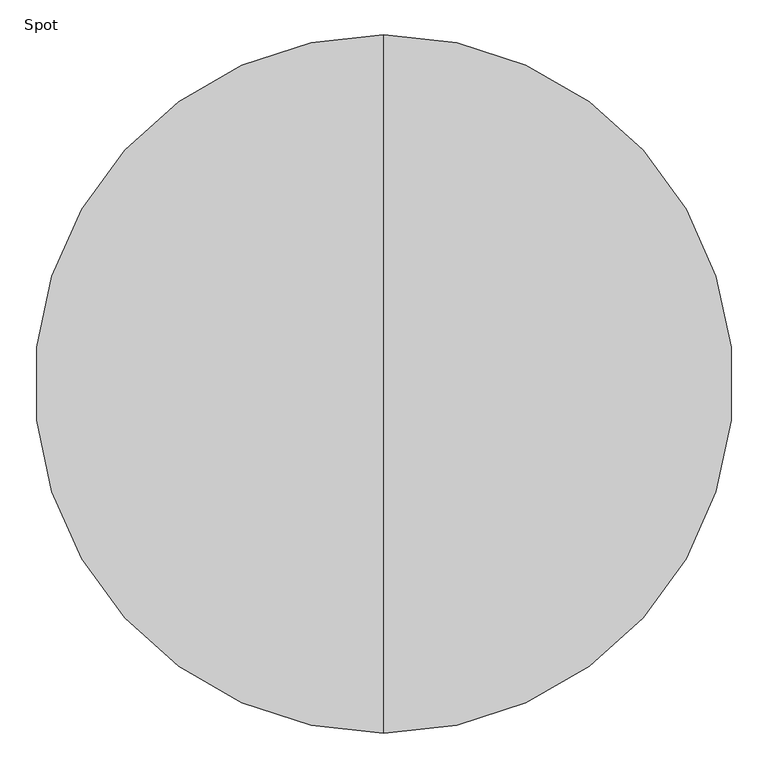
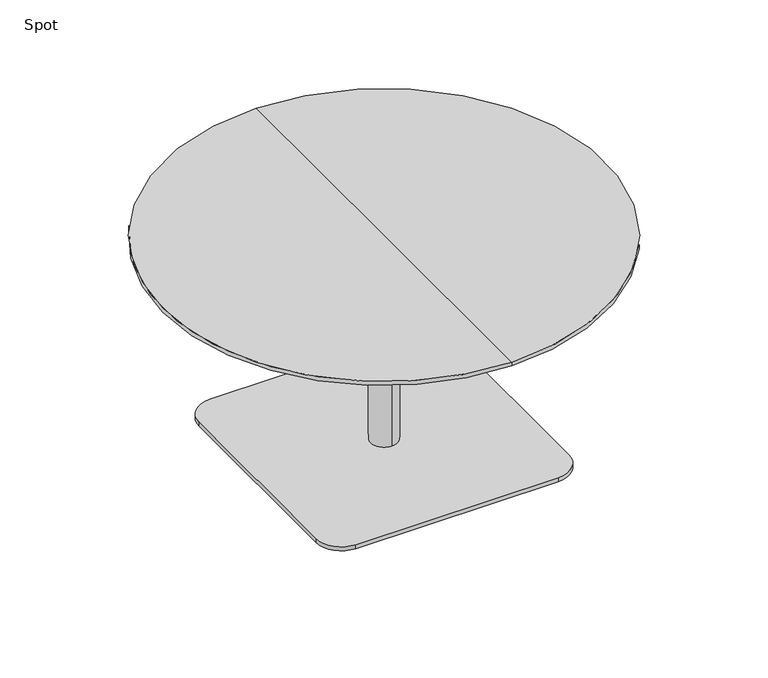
"""IFC4 building model written with IfcOpenShell, lengths in millimetres: furniture geometry, Spot : ø105x52s."""

import ifcopenshell
import ifcopenshell.guid

model = None  # the IFC model being written
_history = None  # IfcOwnerHistory: only IFC2X3 demands one
_inside = {}  # id of a spatial element -> (the spatial element, [elements in it])
_under = {}  # id of a project, library or spatial element -> (it, [spatial elements below it])
_declared = {}  # id of a project -> (the project, [libraries it declares])
_typed = {}  # id of a type object -> (the type object, [elements of that type])
_made_of = {}  # id of a material, layer set ... -> (it, [elements and type objects made of it])


def new_model(schema):
    """Start an empty IFC model of exactly this schema.

    Asked for "IFC4X3", IfcOpenShell would pick the latest addendum, in which some entities
    have other attributes; the version numbers below select the first issue.
    IFC2X3 requires an IfcOwnerHistory on every rooted entity: one is made here for all.
    """
    global model, _history
    if schema == "IFC4X3":
        model = ifcopenshell.file(schema_version=(4, 3, 0, 0))
    else:
        model = ifcopenshell.file(schema=schema)
    _inside.clear()
    _under.clear()
    _declared.clear()
    _typed.clear()
    _made_of.clear()
    _history = None
    if model.schema == "IFC2X3":
        org = make("IfcOrganization", Name="unknown")
        user = make(
            "IfcPersonAndOrganization",
            ThePerson=make("IfcPerson", FamilyName="unknown"),
            TheOrganization=org,
        )
        app = make(
            "IfcApplication",
            ApplicationDeveloper=org,
            Version="unknown",
            ApplicationFullName="unknown",
            ApplicationIdentifier="unknown",
        )
        _history = make(
            "IfcOwnerHistory",
            OwningUser=user,
            OwningApplication=app,
            ChangeAction="ADDED",
            CreationDate=0,
        )
    return model


def make(cls, **values):
    """One entity of the class cls with the attributes given. An attribute that is None is left unset."""
    return model.create_entity(
        cls, **{name: value for name, value in values.items() if value is not None}
    )


def rooted(cls, **values):
    """An entity with a GlobalId (a new one), such as an element, a storey or a relation."""
    return make(cls, GlobalId=ifcopenshell.guid.new(), OwnerHistory=_history, **values)


def si_unit(unit_type, name, prefix=None):
    """IfcSIUnit, for example si_unit("LENGTHUNIT", "METRE", prefix="MILLI")."""
    return make("IfcSIUnit", UnitType=unit_type, Prefix=prefix, Name=name)


def assignment(units):
    """IfcUnitAssignment: the units of a project."""
    return None if units is None else make("IfcUnitAssignment", Units=units)


def point(xyz):
    """IfcCartesianPoint."""
    return None if xyz is None else make("IfcCartesianPoint", Coordinates=xyz)


def direction(xyz):
    """IfcDirection."""
    return None if xyz is None else make("IfcDirection", DirectionRatios=xyz)


def frame(location, z_axis=None, x_axis=None):
    """IfcAxis2Placement3D, a coordinate frame: its origin and axes. An axis left out is left unset."""
    return make(
        "IfcAxis2Placement3D",
        Location=point(location),
        Axis=direction(z_axis),
        RefDirection=direction(x_axis),
    )


def frame_2d(location, x_axis=None):
    """IfcAxis2Placement2D, a coordinate frame in the plane: its origin and x axis."""
    return make(
        "IfcAxis2Placement2D", Location=point(location), RefDirection=direction(x_axis)
    )


def origin():
    """The frame at (0, 0, 0) with its axes left unset."""
    return frame((0.0, 0.0, 0.0))


def origin_with_axes():
    """The frame at (0, 0, 0) with the z axis (0, 0, 1) and the x axis (1, 0, 0) written out."""
    return frame((0.0, 0.0, 0.0), z_axis=(0.0, 0.0, 1.0), x_axis=(1.0, 0.0, 0.0))


def place(relative_to, where):
    """IfcLocalPlacement: puts the frame where relative to a parent placement (None: the world)."""
    return make(
        "IfcLocalPlacement", PlacementRelTo=relative_to, RelativePlacement=where
    )


def context(
    kind, dimensions, precision=None, world=None, true_north=None, identifier=None
):
    """IfcGeometricRepresentationContext, for example the 3D "Model" context."""
    return make(
        "IfcGeometricRepresentationContext",
        ContextIdentifier=identifier,
        ContextType=kind,
        CoordinateSpaceDimension=dimensions,
        Precision=precision,
        WorldCoordinateSystem=world,
        TrueNorth=true_north,
    )


def project(units=None, contexts=None):
    """IfcProject with its units and contexts."""
    return rooted(
        "IfcProject",
        Name="project",
        RepresentationContexts=contexts,
        UnitsInContext=assignment(units),
    )


def spatial(cls, under=None, at=None, **own):
    """A site, building, storey or space (cls), placed at a placement, below another one or the project."""
    s = rooted(cls, ObjectPlacement=at, **own)
    if under is not None:
        _under.setdefault(under.id(), (under, []))[1].append(s)
    return s


def polyline(points):
    """IfcPolyline through the points."""
    return make("IfcPolyline", Points=[point(p) for p in points])


def circle_curve(where, radius):
    """IfcCircle in the frame where."""
    return make("IfcCircle", Position=where, Radius=radius)


def trimmed(basis, trim1, trim2, sense, master):
    """IfcTrimmedCurve: the piece of a basis curve between two trims."""
    return make(
        "IfcTrimmedCurve",
        BasisCurve=basis,
        Trim1=trim1,
        Trim2=trim2,
        SenseAgreement=sense,
        MasterRepresentation=master,
    )


def segment(curve, same_sense, transition):
    """IfcCompositeCurveSegment."""
    return make(
        "IfcCompositeCurveSegment",
        Transition=transition,
        SameSense=same_sense,
        ParentCurve=curve,
    )


def composite_curve(segments, self_intersect=None):
    """IfcCompositeCurve: segments joined end to end."""
    return make("IfcCompositeCurve", Segments=segments, SelfIntersect=self_intersect)


def outline(outer, holes=None, kind="AREA"):
    """IfcArbitraryClosedProfileDef: a profile drawn as a closed curve; with holes, ...WithVoids."""
    if holes is None:
        return make("IfcArbitraryClosedProfileDef", ProfileType=kind, OuterCurve=outer)
    return make(
        "IfcArbitraryProfileDefWithVoids",
        ProfileType=kind,
        OuterCurve=outer,
        InnerCurves=holes,
    )


def extrude(swept, where, along, depth):
    """IfcExtrudedAreaSolid: the profile swept, set in the frame where, extruded along a direction by depth."""
    return make(
        "IfcExtrudedAreaSolid",
        SweptArea=swept,
        Position=where,
        ExtrudedDirection=direction(along),
        Depth=depth,
    )


def shape(context_of_items, identifier, shape_type, items):
    """IfcShapeRepresentation: the items that make up one representation, for example the "Body"."""
    return make(
        "IfcShapeRepresentation",
        ContextOfItems=context_of_items,
        RepresentationIdentifier=identifier,
        RepresentationType=shape_type,
        Items=items,
    )


def source(mapping_origin, context_of_items, identifier, shape_type, items):
    """IfcRepresentationMap: a shape defined once, which mapped items show again and again."""
    return make(
        "IfcRepresentationMap",
        MappingOrigin=mapping_origin,
        MappedRepresentation=shape(context_of_items, identifier, shape_type, items),
    )


def transform(
    local_origin,
    x_axis=None,
    y_axis=None,
    z_axis=None,
    scale=None,
    scale2=None,
    scale3=None,
    uniform=True,
):
    """IfcCartesianTransformationOperator3D, or its non-uniform kind. x_axis, y_axis, z_axis: its Axis1, 2, 3."""
    if uniform:
        return make(
            "IfcCartesianTransformationOperator3D",
            Axis1=direction(x_axis),
            Axis2=direction(y_axis),
            LocalOrigin=point(local_origin),
            Scale=scale,
            Axis3=direction(z_axis),
        )
    return make(
        "IfcCartesianTransformationOperator3DnonUniform",
        Axis1=direction(x_axis),
        Axis2=direction(y_axis),
        LocalOrigin=point(local_origin),
        Scale=scale,
        Axis3=direction(z_axis),
        Scale2=scale2,
        Scale3=scale3,
    )


def mapped(mapping_source, mapping_target):
    """IfcMappedItem: shows the shape of a source again, moved by a transform."""
    return make(
        "IfcMappedItem", MappingSource=mapping_source, MappingTarget=mapping_target
    )


def made_of(thing, what):
    """Note that an element or type object is made of a material, layer set ...; save() writes the relation."""
    if what is not None:
        _made_of.setdefault(what.id(), (what, []))[1].append(thing)
    return thing


def element(
    cls,
    number,
    at=None,
    inside=None,
    cuts=None,
    type_object=None,
    material=None,
    context=None,
    identifier="Body",
    shape_type=None,
    held_by="IfcProductDefinitionShape",
    body=None,
    shapes=None,
    **own,
):
    """One element of the class cls, such as IfcWall. Its Tag is "e" and its number.

    at: its placement. inside: the storey or other place that contains it. cuts: it is an
    opening in that element (IfcRelVoidsElement). A single representation is given by context,
    identifier, shape_type and body (its items); several are given by shapes. held_by: the class
    of the entity that holds the representations. save() writes the other relations.
    """
    e = rooted(cls, Tag="e%d" % number, ObjectPlacement=at, **own)
    if body is not None:
        shapes = [shape(context, identifier, shape_type, body)]
    if shapes is not None:
        e.Representation = make(held_by, Representations=shapes)
    if inside is not None:
        _inside.setdefault(inside.id(), (inside, []))[1].append(e)
    if cuts is not None:
        rooted(
            "IfcRelVoidsElement", RelatingBuildingElement=cuts, RelatedOpeningElement=e
        )
    if type_object is not None:
        _typed.setdefault(type_object.id(), (type_object, []))[1].append(e)
    return made_of(e, material)


def aggregate(whole, parts):
    """IfcRelAggregates: a whole, such as a stair, and the parts it consists of."""
    return rooted("IfcRelAggregates", RelatingObject=whole, RelatedObjects=parts)


def save(model, path):
    """Write the relations noted so far, then the file.

    IfcRelAggregates (storeys below a building ...), IfcRelContainedInSpatialStructure (elements
    in a storey), IfcRelDefinesByType, IfcRelAssociatesMaterial and IfcRelDeclares: one each for
    every whole, place, type object, material and project.
    """
    for whole, parts in _under.values():
        aggregate(whole, parts)
    for where, things in _inside.values():
        rooted(
            "IfcRelContainedInSpatialStructure",
            RelatedElements=things,
            RelatingStructure=where,
        )
    for kind, things in _typed.values():
        rooted("IfcRelDefinesByType", RelatedObjects=things, RelatingType=kind)
    for what, things in _made_of.values():
        rooted("IfcRelAssociatesMaterial", RelatedObjects=things, RelatingMaterial=what)
    for by, libraries in _declared.values():
        rooted("IfcRelDeclares", RelatingContext=by, RelatedDefinitions=libraries)
    model.write(path)


def plane_surface(at):
    """IfcPlane: the flat surface through the origin of the frame at, square to its z axis."""
    return make("IfcPlane", Position=at)


def cylinder_surface(at, radius):
    """IfcCylindricalSurface: all points at the distance radius from the z axis of the frame at."""
    return make("IfcCylindricalSurface", Position=at, Radius=radius)


def revolved_surface(curve, axis_point, axis_direction):
    """IfcSurfaceOfRevolution: the curve turned about the line through axis_point along axis_direction."""
    return make(
        "IfcSurfaceOfRevolution",
        SweptCurve=make("IfcArbitraryOpenProfileDef", ProfileType="CURVE", Curve=curve),
        AxisPosition=make("IfcAxis1Placement", Location=point(axis_point), Axis=direction(axis_direction)),
    )


def advanced_brep(points, edges, surfaces, faces):
    """IfcAdvancedBrep: a solid bounded by faces that lie on surfaces and meet in shared edges.

    An edge is (start, end): straight between two places in points (the first is 0);
    or (start, end, curve); or (start, end, curve, False) where it runs against its curve.
    A face is (place in surfaces, loops), or (place, loops, False) where it looks against
    its surface's normal. A loop lists edges by number (the first is 1), with a minus sign
    where the edge is run from its end to its start. The first loop is the outer one.
    """
    corners = [point(p) for p in points]
    vertices = [make("IfcVertexPoint", VertexGeometry=c) for c in corners]
    made = []
    for start, end, *more in edges:
        made.append(
            make(
                "IfcEdgeCurve",
                EdgeStart=vertices[start],
                EdgeEnd=vertices[end],
                EdgeGeometry=more[0] if more else make("IfcPolyline", Points=[corners[start], corners[end]]),
                SameSense=more[1] if len(more) > 1 else True,
            )
        )
    hull = []
    for where, loops, *sense in faces:
        bounds = []
        for j, loop in enumerate(loops):
            ring = [make("IfcOrientedEdge", EdgeElement=made[abs(k) - 1], Orientation=k > 0) for k in loop]
            bounds.append(
                make(
                    "IfcFaceOuterBound" if j == 0 else "IfcFaceBound",
                    Bound=make("IfcEdgeLoop", EdgeList=ring),
                    Orientation=True,
                )
            )
        hull.append(make("IfcAdvancedFace", Bounds=bounds, FaceSurface=surfaces[where], SameSense=sense[0] if sense else True))
    return make("IfcAdvancedBrep", Outer=make("IfcClosedShell", CfsFaces=hull))


def spot_33e118e5(model_context):
    return source(origin(), model_context, "Body", "SolidModel", [
        advanced_brep(
        [(0.0, -525.0, 520.0), (0.0, 525.0, 520.0), (0.0, 0.0, 520.0), (0.0, 525.0, 510.25), (0.0, -525.0, 510.25), (0.0, 0.0, 498.0), (0.0, -479.2823776, 498.0), (0.0, 479.2823776, 498.0)],
        [
            (0, 1, circle_curve(frame((0.0, 0.0, 520.0), z_axis=(0.0, 0.0, 1.0), x_axis=(0.0, -1.0, 0.0)), 525.0)),
            (1, 2),
            (2, 0),
            (3, 4, circle_curve(frame((0.0, 0.0, 510.25), z_axis=(0.0, 0.0, 1.0), x_axis=(0.0, -1.0, 0.0)), 525.0)),
            (4, 0),
            (0, 1, circle_curve(frame((0.0, 0.0, 520.0), z_axis=(0.0, 0.0, -1.0), x_axis=(0.0, -1.0, 0.0)), 525.0)),
            (1, 3),
            (5, 6),
            (6, 7, circle_curve(frame((0.0, 0.0, 498.0), z_axis=(0.0, 0.0, -1.0), x_axis=(0.0, -1.0, 0.0)), 479.2823776)),
            (7, 5),
            (7, 6, circle_curve(frame((0.0, 0.0, 498.0), z_axis=(0.0, 0.0, -1.0), x_axis=(0.0, -1.0, 0.0)), 479.2823776)),
            (4, 3, circle_curve(frame((0.0, 0.0, 510.25), z_axis=(0.0, 0.0, 1.0), x_axis=(0.0, -1.0, 0.0)), 525.0)),
            (6, 4),
            (3, 7),
        ],
        [
            plane_surface(frame((0.0, 0.0, 520.0), z_axis=(0.0, 0.0, 1.0), x_axis=(0.0, -1.0, 0.0))),
            cylinder_surface(frame((0.0, 0.0, 600.0), z_axis=(0.0, 0.0, -1.0), x_axis=(0.0, -1.0, 0.0)), 525.0),
            plane_surface(frame((0.0, 0.0, 498.0), z_axis=(0.0, 0.0, -1.0), x_axis=(0.0, -1.0, 0.0))),
            revolved_surface(polyline([(0.0, -525.0, 510.25), (0.0, -479.2823776, 498.0)]), (0.0, 0.0, 600.0), (0.0, 0.0, -1.0)),
        ],
        [
            (0, [[1, 2, 3]]),
            (1, [[4, 5, 6, 7]]),
            (2, [[8, 9, 10]]),
            (2, [[-10, 11, -8]]),
            (0, [[-6, -3, -2]]),
            (1, [[12, -7, -1, -5]]),
            (3, [[-9, 13, -4, 14]]),
            (3, [[-11, -14, -12, -13]]),
        ],
    ),
        extrude(outline(composite_curve([segment(trimmed(circle_curve(frame_2d((240.0, 240.0)), 60.0), [point((240.0, 300.0))], [point((300.0, 240.0))], False, "CARTESIAN"), True, "CONTINUOUS"), segment(polyline([(300.0, 240.0), (300.0, -240.0)]), True, "CONTINUOUS"), segment(trimmed(circle_curve(frame_2d((240.0, -240.0)), 60.0), [point((300.0, -240.0))], [point((240.0, -300.0))], False, "CARTESIAN"), True, "CONTINUOUS"), segment(polyline([(240.0, -300.0), (-240.0, -300.0)]), True, "CONTINUOUS"), segment(trimmed(circle_curve(frame_2d((-240.0, -240.0)), 60.0), [point((-240.0, -300.0))], [point((-300.0, -240.0))], False, "CARTESIAN"), True, "CONTINUOUS"), segment(polyline([(-300.0, -240.0), (-300.0, 240.0)]), True, "CONTINUOUS"), segment(trimmed(circle_curve(frame_2d((-240.0, 240.0)), 60.0), [point((-300.0, 240.0))], [point((-240.0, 300.0))], False, "CARTESIAN"), True, "CONTINUOUS"), segment(polyline([(-240.0, 300.0), (240.0, 300.0)]), True, "CONTINUOUS")], self_intersect=False)), origin_with_axes(), (0.0, 0.0, 1.0), 10.0),
        advanced_brep(
        [(0.0, 32.0, 10.0), (0.0, -32.0, 10.0), (0.0, -32.0, 467.406916), (0.0, 32.0, 467.406916), (0.0, 0.0, 10.0), (0.0, 150.0, 498.0), (0.0, -150.0, 498.0), (0.0, 0.0, 498.0), (0.0, 150.0, 486.7213673), (0.0, -150.0, 486.7213673)],
        [
            (0, 1, circle_curve(frame((0.0, 0.0, 10.0), z_axis=(0.0, 0.0, 1.0), x_axis=(0.0, -1.0, 0.0)), 32.0)),
            (1, 2),
            (2, 3, circle_curve(frame((0.0, 0.0, 467.406916), z_axis=(0.0, 0.0, -1.0), x_axis=(0.0, -1.0, 0.0)), 32.0)),
            (3, 0),
            (1, 0, circle_curve(frame((0.0, 0.0, 10.0), z_axis=(0.0, 0.0, 1.0), x_axis=(0.0, -1.0, 0.0)), 32.0)),
            (3, 2, circle_curve(frame((0.0, 0.0, 467.406916), z_axis=(0.0, 0.0, -1.0), x_axis=(0.0, -1.0, 0.0)), 32.0)),
            (4, 1),
            (0, 4),
            (5, 6, circle_curve(frame((0.0, 0.0, 498.0), z_axis=(0.0, 0.0, 1.0), x_axis=(0.0, -1.0, 0.0)), 150.0)),
            (6, 7),
            (7, 5),
            (6, 5, circle_curve(frame((0.0, 0.0, 498.0), z_axis=(0.0, 0.0, 1.0), x_axis=(0.0, -1.0, 0.0)), 150.0)),
            (8, 9, circle_curve(frame((0.0, 0.0, 486.7213673), z_axis=(0.0, 0.0, 1.0), x_axis=(0.0, -1.0, 0.0)), 150.0)),
            (9, 6),
            (5, 8),
            (9, 8, circle_curve(frame((0.0, 0.0, 486.7213673), z_axis=(0.0, 0.0, 1.0), x_axis=(0.0, -1.0, 0.0)), 150.0)),
            (2, 9),
            (8, 3),
        ],
        [
            cylinder_surface(frame((0.0, 0.0, 860.0), z_axis=(0.0, 0.0, -1.0), x_axis=(0.0, -1.0, 0.0)), 32.0),
            plane_surface(frame((0.0, 0.0, 10.0), z_axis=(0.0, 0.0, -1.0), x_axis=(0.0, -1.0, 0.0))),
            plane_surface(frame((0.0, 0.0, 498.0), z_axis=(0.0, 0.0, 1.0), x_axis=(0.0, -1.0, 0.0))),
            cylinder_surface(frame((0.0, 0.0, 860.0), z_axis=(0.0, 0.0, -1.0), x_axis=(0.0, -1.0, 0.0)), 150.0),
            revolved_surface(polyline([(0.0, -150.0, 486.7213673), (0.0, -32.0, 467.406916)]), (0.0, 0.0, 860.0), (0.0, 0.0, -1.0)),
        ],
        [
            (0, [[1, 2, 3, 4]]),
            (0, [[5, -4, 6, -2]]),
            (1, [[7, -1, 8]]),
            (1, [[-8, -5, -7]]),
            (2, [[9, 10, 11]]),
            (2, [[12, -11, -10]]),
            (3, [[13, 14, -9, 15]]),
            (3, [[16, -15, -12, -14]]),
            (4, [[-3, 17, -13, 18]]),
            (4, [[-6, -18, -16, -17]]),
        ],
    ),
        extrude(outline(polyline([(0.0, 0.0), (-20.0, 0.0), (-20.0, 20.0), (0.0, 20.0), (0.0, 0.0)])), origin_with_axes(), (0.0, 0.0, 1.0), 10.0),
    ])


if __name__ == "__main__":
    model = new_model("IFC4")
    model_context = context("Model", 3, world=origin())
    ifc_project = project(units=[si_unit("LENGTHUNIT", "METRE", prefix="MILLI")], contexts=[model_context])
    site = spatial("IfcSite", under=ifc_project)
    building = spatial("IfcBuilding", under=site)
    placement = place(None, origin())
    spot_shape = spot_33e118e5(model_context)
    element("IfcFurniture", 1, ObjectType="Spot : ø105x52s", at=placement, inside=building, context=model_context, shape_type="MappedRepresentation", body=[
        mapped(spot_shape, transform((0.0, 0.0, 0.0), x_axis=(1.0, 0.0, 0.0), y_axis=(0.0, 1.0, 0.0), z_axis=(0.0, 0.0, 1.0))),
    ])
    save(model, "model.ifc")
